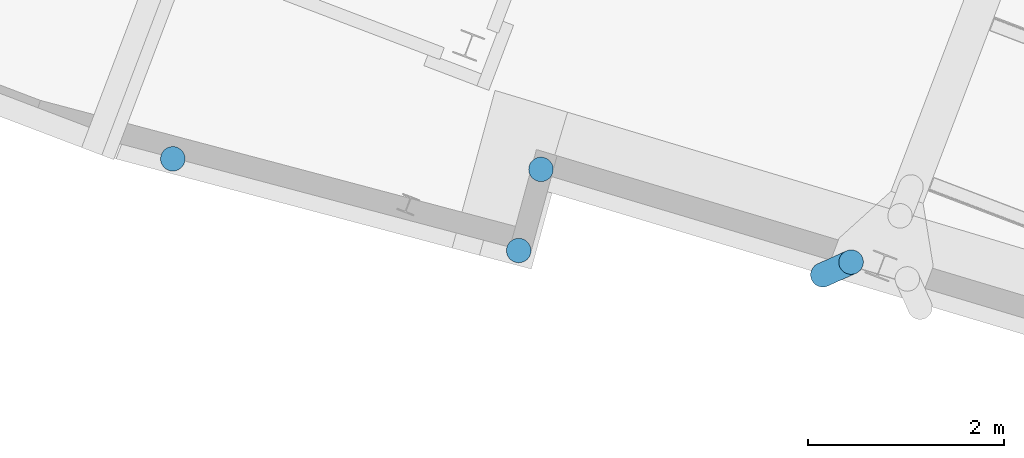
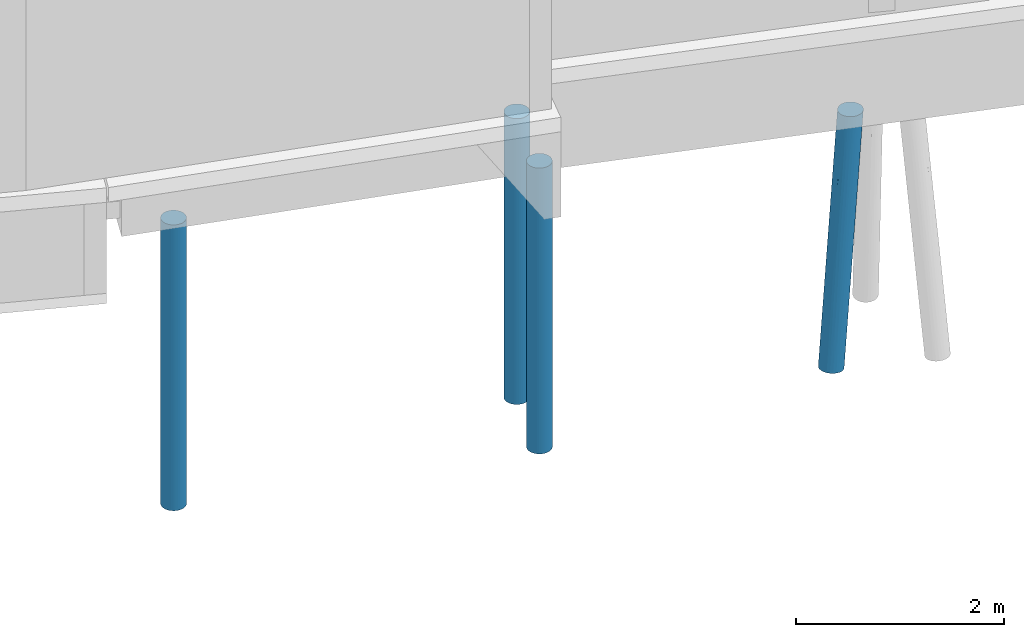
# One storey, part 1 of 46: 4 piles.
"""IFC2X3 building model written with IfcOpenShell, lengths in millimetres."""

from ifc_helpers import new_model, entity, si_unit, converted_unit, derived_unit, direction, frame, frame_2d, origin, place, context, subcontext, project, spatial, circle, extrude, faceted_brep, source, transform, mapped, material, type_object, type_shapes, element, save


model = new_model("IFC2X3")

# Units and contexts
model_context = context("Model", 3, precision=0.01, world=origin(), true_north=direction((6.123233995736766e-17, 1.0)))
body_context = subcontext(model_context, "Body", "Model", "MODEL_VIEW")
ifc_project = project(units=[si_unit("LENGTHUNIT", "METRE", prefix="MILLI"), converted_unit("PLANEANGLEUNIT", "DEGREE", entity("IfcPlaneAngleMeasure", 0.017453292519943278), si_unit("PLANEANGLEUNIT", "RADIAN"), dimensions=[0, 0, 0, 0, 0, 0, 0]), si_unit("AREAUNIT", "SQUARE_METRE"), derived_unit("THERMALTRANSMITTANCEUNIT", [(si_unit("MASSUNIT", "GRAM", prefix="KILO"), 1), (si_unit("THERMODYNAMICTEMPERATUREUNIT", "KELVIN"), -1), (si_unit("TIMEUNIT", "SECOND"), -3)])], contexts=[model_context])

# Site, building, storey
site_placement = place(None, frame((-72937.88054949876, 11621.45624098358, 0.0), z_axis=(0.0, 0.0, 1.0), x_axis=(0.9346418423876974, -0.35559053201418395, 0.0)))
site = spatial("IfcSite", under=ifc_project, at=site_placement, Name="Default", CompositionType="ELEMENT")
building_placement = place(site_placement, origin())
building = spatial("IfcBuilding", under=site, at=building_placement, CompositionType="ELEMENT")
storey_placement = place(building_placement, origin())
storey = spatial("IfcBuildingStorey", under=building, at=storey_placement, Name="00 begane grond", CompositionType="ELEMENT", Elevation=0.0)

# Piles
ifc_material = material(Name="beton_gewapend_prefab-element_c45/55")
type_product_1 = type_object("IfcTypeProduct", Name="Type 01", material=ifc_material)
shared_shape_1 = source(origin(), body_context, "Body", "Brep", [
    faceted_brep([(124.838162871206, -27.815116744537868, -1150.0), (115.53639022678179, -54.2354673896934, -1150.0), (72.36643070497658, -41.239861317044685, -1587.2480771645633), (-111.09194578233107, -54.23546738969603, -1150.0), (-165.1894529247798, -41.33003827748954, -1588.444859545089), (-182.07875772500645, -65.1457063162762, -1842.6627389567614), (-30.14575159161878, -64.60051474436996, -2410.3553271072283), (32.98344934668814, -64.94314047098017, -1840.3127773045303), (15.031797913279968, -88.27496307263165, -1836.1297740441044), (41.77006032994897, 0.0, -1925.9925992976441), (100.55257203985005, -77.9362252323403, -1150.0), (80.6380595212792, -97.7289353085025, -1150.0), (-180.54618184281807, -99.16916754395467, -3483.986786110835), (-108.1734310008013, -106.74566752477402, -2732.5343267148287), (-175.6519081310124, -115.48494156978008, -3184.0354063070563), (-42.91884640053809, -117.90464735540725, -1932.203812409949), (56.79144948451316, -112.62110848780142, -1150.0), (30.20851053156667, -121.8659890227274, -1150.0), (-120.39371842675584, -27.81511674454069, -1150.0), (-242.98263969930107, -88.62069146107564, -2558.5627355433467), (-162.25875578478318, -88.50075404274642, -1830.9574517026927), (-245.70385641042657, -64.88368548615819, -2413.843724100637), (-194.4421984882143, -32.35238063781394, -4013.333582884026), (-133.56769714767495, -28.49629953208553, -3474.2266886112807), (-151.93048965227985, -53.33845094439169, -3561.073967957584), (12.222467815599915, -106.275938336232, -1655.8961403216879), (-23.42762089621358, -124.20079095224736, -1508.642990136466), (-80.64748703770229, -124.2366812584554, -1770.9263967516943), (-73.06982999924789, -124.27812918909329, -1949.101189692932), (-265.024992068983, -123.93060767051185, -3407.479310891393), (-314.4444444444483, -125.0, -4000.0), (-240.21076201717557, -123.93060767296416, -3479.642475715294), (-190.20897761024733, 0.0, -4013.803940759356), (-117.33081280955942, 0.0, -3357.900457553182), (-25.764066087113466, -121.86598902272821, -1150.0), (2.2222222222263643, -125.0, -1150.0), (-317.9689709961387, -23.60182842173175, -2920.157783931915), (-375.26894382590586, -28.366113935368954, -3445.0277270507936), (-326.96702366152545, -47.83542903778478, -3066.9425894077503), (-73.70805836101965, -23.187811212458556, -2945.6497765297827), (16.085837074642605, -41.18767244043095, -2093.938466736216), (-39.92708990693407, -41.47720200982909, -2597.136214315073), (-183.66520352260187, -123.01104339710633, -3024.1067526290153), (-196.28435151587, -123.47165352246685, -2760.09510592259), (-252.3267110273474, -108.25317547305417, -4006.901970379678), (-226.59670338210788, -88.38834764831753, -4009.7608601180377), (-206.8533741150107, -62.49999999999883, -4011.9545633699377), (-148.27550792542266, -76.09517863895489, -3402.494577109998), (-119.74622127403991, -106.37235269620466, -1653.229951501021), (-99.40312932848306, -118.21391771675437, -1696.7443345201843), (-52.347005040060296, -112.62110848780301, -1150.0), (-238.2779479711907, -106.2597512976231, -2718.3665211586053), (-185.92128902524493, -102.46025049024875, -2194.904710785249), (-42.820885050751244, -102.58547775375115, -2202.1491422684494), (-156.2252162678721, -118.09364807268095, -2204.9892079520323), (-264.72929865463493, -115.48494155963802, -3119.3954545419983), (-319.0271104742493, -115.48494156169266, -3608.075760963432), (-76.19361507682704, -97.72893530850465, -1150.0), (-96.10812759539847, -77.93622523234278, -1150.0), (-44.45199380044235, 0.0, -2701.9910864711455), (-1.3402226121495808, 0.0, -2313.985145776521), (-292.9202820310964, -72.79893776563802, -2886.1326580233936), (-292.6922084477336, -91.63383624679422, -3034.349570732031), (-282.2899395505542, -120.74072828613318, -4003.5727227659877), (-227.3188222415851, -115.48494156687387, -3649.037633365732), (-209.76851175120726, 0.0, -1925.9934634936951), (-221.60043037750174, -41.38232604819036, -2096.3096577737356), (-376.56217786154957, -108.25317547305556, -3993.0980296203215), (-346.59894933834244, -120.74072828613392, -3996.4272772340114), (-66.21715172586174, -88.15377228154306, -2568.4634430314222), (-129.97696806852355, -118.32629651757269, -2704.7019880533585), (-123.5470158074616, 0.0, -1150.0), (-377.52744650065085, -52.97984274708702, -3542.5215927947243), (-345.70385271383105, -76.09517862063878, -3383.3196685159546), (-275.8885685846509, -42.22399193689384, -2587.6075033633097), (-422.0355147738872, -62.50000000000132, -3988.0454366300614), (-402.29218550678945, -88.38834764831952, -3990.239139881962), (-331.8470727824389, -99.16916753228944, -3467.5525053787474), (-132.4434459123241, -124.68323586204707, -2281.458802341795), (-96.52658231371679, -47.8354290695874, -3084.4998642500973), (-89.11715414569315, -71.65077909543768, -2899.5648185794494), (127.99146025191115, 0.0, -1150.0), (-252.87925972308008, 0.0, -2313.9901952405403), (-122.93481462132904, -90.89446365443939, -3053.447507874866), (-434.4466904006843, -32.352380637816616, -3986.6664171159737), (-438.679911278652, 0.0, -3986.1960592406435), (-141.73877836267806, -124.16072599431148, -2576.5969257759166), (-210.06991733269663, -117.23436667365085, -2667.8819222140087), (-295.9900076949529, 0.0, -2701.9869269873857), (-367.3349594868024, 0.0, -3344.0914931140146), (124.83816287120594, 27.815116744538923, -1150.0), (115.53639022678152, 54.23546738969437, -1150.0), (100.55257203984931, 77.93622523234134, -1150.0), (80.63805952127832, 97.7289353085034, -1150.0), (56.79144948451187, 112.62110848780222, -1150.0), (30.20851053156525, 121.86598902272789, -1150.0), (2.22222222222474, 125.0, -1150.0), (-25.76406608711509, 121.86598902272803, -1150.0), (-52.34700504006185, 112.62110848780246, -1150.0), (-76.1936150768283, 97.72893530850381, -1150.0), (-96.10812759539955, 77.93622523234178, -1150.0), (-111.09194578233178, 54.23546738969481, -1150.0), (-120.39371842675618, 27.815116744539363, -1150.0), (-96.52658225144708, 47.83542901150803, -3084.4998639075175), (-133.5676976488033, 28.496299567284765, -3474.2266930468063), (-151.9304895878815, 53.338451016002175, -3561.073967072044), (-176.7825211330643, 87.58614607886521, -1953.453255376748), (-126.78568187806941, 88.44799753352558, -1511.2211246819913), (-140.32328536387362, 105.94191584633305, -1832.1538289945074), (-185.53475823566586, 41.3488976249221, -1771.6124540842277), (-98.5233768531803, 124.24251446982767, -1932.2861052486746), (-159.3540506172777, 67.83984168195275, -1653.46778938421), (-221.49211536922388, 66.66107193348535, -2205.8974607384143), (-402.2921855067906, 88.38834764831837, -3990.239139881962), (-352.8086337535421, 76.09517892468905, -3447.262699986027), (-312.10423006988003, 99.16916769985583, -3289.866922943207), (-282.2899395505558, 120.74072828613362, -4003.5727227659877), (-314.44444444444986, 125.0, -4000.0), (-235.4135805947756, 123.93060766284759, -3436.467843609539), (-362.94366171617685, 26.27355326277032, -3329.855963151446), (-328.2998352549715, 47.83542988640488, -3078.9378969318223), (-384.2243809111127, 47.83542945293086, -3582.258806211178), (-376.562177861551, 108.25317547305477, -3993.0980296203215), (-180.54618171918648, 99.16916751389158, -3483.9867853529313), (-148.27550783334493, 76.0951785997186, -3402.49457655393), (-226.59670338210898, 88.38834764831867, -4009.7608601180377), (-163.5203657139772, 118.46525212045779, -2280.489865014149), (-104.92272192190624, 118.27912572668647, -1748.143371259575), (-89.11715398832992, 71.6507788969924, -2899.5648184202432), (-39.927089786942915, 41.4772017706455, -2597.1362139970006), (-274.28881423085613, 82.15433137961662, -2785.484682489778), (-221.11735801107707, 106.04994682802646, -2560.8655013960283), (-422.03551477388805, 62.49999999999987, -3988.0454366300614), (-434.4466904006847, 32.35238063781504, -3986.6664171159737), (-180.90977316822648, 122.95522291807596, -3002.0876370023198), (-141.73877802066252, 124.16072595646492, -2576.596925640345), (-129.97696798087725, 118.32629644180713, -2704.701989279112), (-180.2811496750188, 124.04234815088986, -2652.685215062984), (-242.59310629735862, 123.930607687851, -3205.592340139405), (-232.5682987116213, 117.68101498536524, -2881.4778788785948), (-301.7888662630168, 115.48494161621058, -3452.931564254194), (-346.598949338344, 120.7407282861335, -3996.4272772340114), (-206.85337411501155, 62.50000000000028, -4011.9545633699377), (-42.918846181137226, 117.90464729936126, -1932.2038118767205), (-83.49872980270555, 124.18127902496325, -2050.8284888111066), (-29.55955353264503, 124.19873841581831, -1563.9938530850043), (15.03179802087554, 88.27496298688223, -1836.1297738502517), (32.983449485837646, 64.94314037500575, -1840.3127765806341), (-30.14575143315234, 64.60051457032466, -2410.3553266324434), (-42.820884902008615, 102.58547764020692, -2202.149142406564), (12.222467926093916, 106.27593827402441, -1655.89614023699), (-73.70805863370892, 23.18781108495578, -2945.6497792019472), (16.08583725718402, 41.18767230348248, -2093.9384655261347), (72.36643080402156, 41.2398612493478, -1587.2480764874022), (-221.94118502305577, 91.78881553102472, -2399.105716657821), (-108.17343087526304, 106.7456674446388, -2732.5343267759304), (-66.2171515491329, 88.15377212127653, -2568.463442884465), (-122.93481449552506, 90.89446347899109, -3053.447508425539), (-262.27997921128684, 34.77836369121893, -2443.29023072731), (-227.3188223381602, 115.48494155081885, -3649.037634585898), (-252.32671102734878, 108.25317547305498, -4006.901970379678), (-277.036285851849, 61.03344887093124, -2675.5040755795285), (-194.44219848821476, 32.35238063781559, -4013.333582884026), (-312.1095376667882, 26.52940126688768, -2872.8494770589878), (-175.65190824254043, 115.48494153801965, -3184.035408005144)], [[[0, 1, 2]], [[3, 4, 5]], [[6, 7, 8]], [[9, 0, 2]], [[8, 10, 11]], [[12, 13, 14]], [[15, 16, 17]], [[4, 3, 18]], [[19, 20, 21]], [[22, 23, 24]], [[11, 16, 25]], [[26, 27, 28]], [[29, 30, 31]], [[32, 33, 23]], [[10, 8, 7]], [[34, 27, 35]], [[36, 37, 38]], [[33, 39, 23]], [[40, 6, 41]], [[42, 43, 29]], [[44, 45, 12]], [[20, 5, 21]], [[26, 17, 35]], [[45, 46, 47]], [[48, 49, 50]], [[19, 51, 52]], [[53, 25, 15]], [[46, 24, 47]], [[48, 54, 49]], [[55, 56, 29]], [[57, 58, 20]], [[40, 59, 60, 9]], [[61, 62, 19]], [[2, 7, 40]], [[63, 44, 64]], [[65, 66, 4]], [[3, 5, 58]], [[20, 52, 48]], [[67, 68, 56]], [[29, 43, 55]], [[69, 53, 13]], [[13, 70, 14]], [[18, 71, 65]], [[72, 73, 38]], [[68, 30, 29]], [[74, 36, 38]], [[62, 51, 19]], [[38, 61, 74]], [[37, 72, 38]], [[75, 76, 73]], [[76, 77, 73]], [[57, 20, 48]], [[12, 45, 47]], [[6, 40, 7]], [[78, 54, 43]], [[27, 78, 28]], [[79, 41, 80]], [[81, 0, 9]], [[66, 65, 82]], [[41, 39, 59]], [[13, 12, 83]], [[76, 67, 77]], [[84, 37, 85]], [[21, 61, 19]], [[30, 63, 31]], [[31, 42, 29]], [[47, 80, 83]], [[64, 12, 14]], [[56, 77, 67]], [[51, 62, 77]], [[64, 31, 63]], [[14, 70, 42]], [[1, 10, 7]], [[9, 2, 40]], [[7, 2, 1]], [[6, 8, 69]], [[80, 6, 69]], [[6, 80, 41]], [[65, 4, 18]], [[5, 4, 66]], [[5, 66, 21]], [[58, 5, 20]], [[74, 21, 66]], [[61, 38, 73]], [[78, 43, 86]], [[55, 87, 51]], [[83, 80, 69]], [[79, 80, 47]], [[83, 69, 13]], [[47, 83, 12]], [[53, 69, 8]], [[70, 15, 86]], [[25, 53, 8]], [[70, 53, 15]], [[11, 25, 8]], [[15, 25, 16]], [[39, 41, 79]], [[59, 40, 41]], [[23, 39, 79]], [[33, 59, 39]], [[24, 23, 79]], [[32, 23, 22]], [[47, 24, 79]], [[22, 24, 46]], [[61, 21, 74]], [[62, 73, 77]], [[73, 62, 61]], [[51, 77, 55]], [[87, 55, 43]], [[19, 52, 20]], [[51, 54, 52]], [[27, 49, 54]], [[54, 48, 52]], [[57, 48, 50]], [[70, 13, 53]], [[42, 70, 86]], [[43, 42, 86]], [[14, 42, 31]], [[29, 56, 68]], [[74, 66, 82]], [[88, 89, 36, 82]], [[37, 36, 89]], [[85, 37, 89]], [[72, 84, 75]], [[84, 72, 37]], [[73, 72, 75]], [[43, 54, 87]], [[54, 51, 87]], [[36, 74, 82]], [[77, 56, 55]], [[28, 86, 15]], [[54, 78, 27]], [[86, 28, 78]], [[26, 15, 17]], [[27, 26, 35]], [[15, 26, 28]], [[12, 64, 44]], [[31, 64, 14]], [[27, 34, 49]], [[50, 49, 34]], [[34, 35, 17, 16, 11, 10, 1, 0, 81, 90, 91, 92, 93, 94, 95, 96, 97, 98, 99, 100, 101, 102, 71, 18, 3, 58, 57, 50]], [[103, 104, 105]], [[90, 81, 9]], [[106, 107, 108]], [[109, 102, 101]], [[110, 97, 96]], [[111, 112, 109]], [[113, 114, 115]], [[116, 117, 118]], [[98, 108, 99]], [[119, 120, 121]], [[113, 115, 122]], [[106, 112, 111]], [[123, 124, 125]], [[110, 126, 127]], [[119, 85, 89]], [[65, 71, 102]], [[103, 128, 129]], [[115, 130, 131]], [[108, 127, 126]], [[132, 133, 121]], [[134, 135, 136]], [[137, 138, 139]], [[140, 141, 122]], [[142, 125, 124]], [[143, 144, 145]], [[146, 147, 148]], [[146, 149, 150]], [[130, 115, 114]], [[151, 104, 103]], [[143, 136, 144]], [[9, 152, 153]], [[140, 122, 115]], [[143, 95, 94]], [[98, 97, 127]], [[92, 146, 93]], [[138, 140, 139]], [[131, 130, 154]], [[129, 151, 103]], [[117, 141, 138]], [[118, 117, 138]], [[155, 156, 157]], [[96, 95, 145]], [[109, 158, 65]], [[116, 159, 160]], [[143, 149, 136]], [[153, 91, 90]], [[105, 124, 103]], [[112, 158, 109]], [[146, 148, 156]], [[100, 111, 101]], [[128, 157, 156]], [[147, 92, 91]], [[91, 153, 147]], [[150, 93, 146]], [[156, 155, 149]], [[161, 158, 112]], [[65, 102, 109]], [[113, 132, 114]], [[139, 140, 115]], [[125, 160, 123]], [[152, 9, 60]], [[162, 104, 32]], [[148, 128, 156]], [[138, 137, 134]], [[163, 158, 120]], [[159, 118, 164]], [[121, 114, 132]], [[130, 161, 112]], [[161, 114, 120]], [[112, 106, 154]], [[139, 115, 131]], [[138, 141, 140]], [[163, 120, 119]], [[158, 88, 82, 65]], [[159, 123, 160]], [[155, 157, 123]], [[9, 153, 90]], [[147, 153, 152]], [[147, 152, 148]], [[92, 147, 146]], [[129, 148, 152]], [[128, 103, 124]], [[131, 126, 139]], [[135, 134, 137]], [[108, 126, 131]], [[110, 144, 137]], [[139, 126, 137]], [[110, 137, 126]], [[128, 148, 129]], [[157, 124, 123]], [[124, 157, 128]], [[155, 123, 164]], [[136, 155, 164]], [[156, 149, 146]], [[136, 149, 155]], [[150, 143, 94]], [[143, 150, 149]], [[93, 150, 94]], [[101, 111, 109]], [[129, 152, 60]], [[59, 33, 151]], [[104, 151, 33]], [[32, 104, 33]], [[105, 162, 142]], [[162, 105, 104]], [[124, 105, 142]], [[98, 127, 108]], [[97, 110, 127]], [[134, 164, 118]], [[136, 135, 144]], [[164, 134, 136]], [[138, 134, 118]], [[133, 85, 119]], [[114, 121, 120]], [[133, 119, 121]], [[163, 89, 88]], [[89, 163, 119]], [[88, 158, 163]], [[59, 151, 129]], [[60, 59, 129]], [[100, 99, 107]], [[111, 100, 107]], [[154, 108, 131]], [[108, 107, 99]], [[111, 107, 106]], [[137, 144, 135]], [[145, 110, 96]], [[143, 145, 95]], [[110, 145, 144]], [[118, 159, 116]], [[123, 159, 164]], [[114, 161, 130]], [[158, 161, 120]], [[112, 154, 130]], [[108, 154, 106]], [[141, 117, 116, 160, 125, 142, 162, 32, 22, 46, 45, 44, 63, 30, 68, 67, 76, 75, 84, 85, 133, 132, 113, 122]]]),
])
type_shapes(type_product_1, [shared_shape_1])
pile_placement = place(storey_placement, frame((57270.0, 14319.642586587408, 0.0), z_axis=(0.0, 0.0, 1.0), x_axis=(0.7071067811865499, 0.7071067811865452, 0.0)))
element("IfcPile", 1, at=pile_placement, inside=storey, type_object=type_product_1, material=ifc_material, Name="17.21_Prefab funderingspaal rond", ObjectType="prefab paal rond", PredefinedType="NOTDEFINED", context=body_context, shape_type="MappedRepresentation", body=[
    mapped(shared_shape_1, transform((0.0, 0.0, 0.0), scale=1.0)),
])
type_product_2 = type_object("IfcTypeProduct", Name="Type 01", material=ifc_material)
shared_shape_2 = source(origin(), body_context, "Body", "SweptSolid", [
    extrude(circle(Radius=125.00000000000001, at=frame_2d((2.0437224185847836e-18, -1.5887941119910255e-13), x_axis=(1.0, 0.0))), frame((-1.6700054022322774e-06, 0.0, -4000.0), z_axis=(0.0, 0.0, 1.0), x_axis=(-1.0, 0.0, 0.0)), (0.0, 0.0, 1.0), 3359.9999999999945),
])
type_shapes(type_product_2, [shared_shape_2])
for number, where, z_axis, x_axis, name in (
    (2, (53978.6590020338, 14080.740022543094, 0.0), (0.0, 0.0, 1.0), (-1.0, 0.0, 0.0), "17.21_Prefab funderingspaal rond"),
    (3, (54060.80014277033, 13226.397406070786, 0.0), (0.0, 0.0, 1.0), (-1.0, 0.0, 0.0), "17.21_Prefab funderingspaal rond"),
    (4, (50430.660971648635, 12846.148016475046, 0.0), (0.0, 0.0, 1.0), (-1.0, 0.0, 0.0), "17.21_Prefab funderingspaal rond"),
):
    element("IfcPile", number, at=place(storey_placement, frame(where, z_axis=z_axis, x_axis=x_axis)), inside=storey, type_object=type_product_2, material=ifc_material, Name=name, ObjectType="prefab paal rond", PredefinedType="NOTDEFINED", context=body_context, shape_type="MappedRepresentation", body=[
        mapped(shared_shape_2, transform((0.0, 0.0, 0.0), scale=1.0)),
    ])

save(model, "model.ifc")
